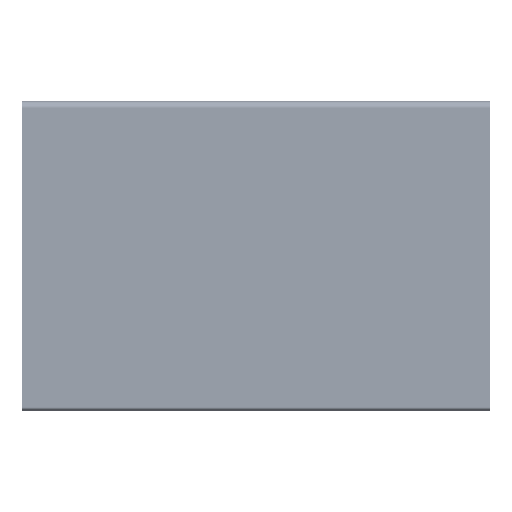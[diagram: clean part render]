
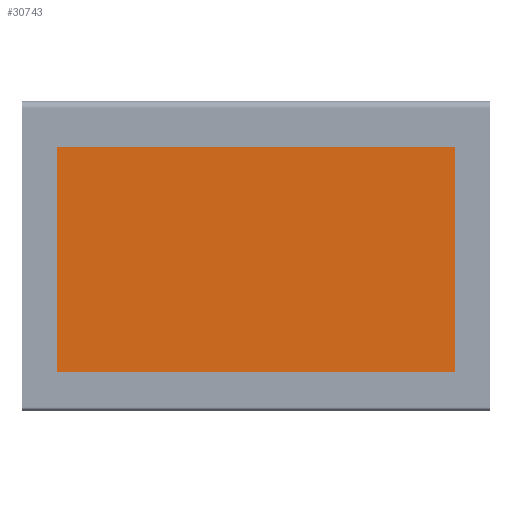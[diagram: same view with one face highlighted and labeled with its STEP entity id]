
A CAD part, top view. The second image highlights one B-rep face of the part: STEP entity #30743.
In plain terms, the highlighted planar face has unit normal (0, 0, 1).
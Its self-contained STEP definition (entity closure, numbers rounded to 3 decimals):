
#10075=DIRECTION('',(-1.,0.,0.));
#10076=VECTOR('',#10075,295.);
#10077=CARTESIAN_POINT('',(147.5,83.3,-0.2));
#10078=LINE('',#10077,#10076);
#10079=DIRECTION('',(0.,1.,0.));
#10080=VECTOR('',#10079,166.6);
#10081=CARTESIAN_POINT('',(147.5,-83.3,-0.2));
#10082=LINE('',#10081,#10080);
#10083=DIRECTION('',(1.,0.,0.));
#10084=VECTOR('',#10083,295.);
#10085=CARTESIAN_POINT('',(-147.5,-83.3,-0.2));
#10086=LINE('',#10085,#10084);
#10087=DIRECTION('',(0.,-1.,0.));
#10088=VECTOR('',#10087,166.6);
#10089=CARTESIAN_POINT('',(-147.5,83.3,-0.2));
#10090=LINE('',#10089,#10088);
#11658=CARTESIAN_POINT('',(-147.5,83.3,-0.2));
#11659=VERTEX_POINT('',#11658);
#11660=CARTESIAN_POINT('',(147.5,83.3,-0.2));
#11661=VERTEX_POINT('',#11660);
#11662=CARTESIAN_POINT('',(147.5,-83.3,-0.2));
#11663=VERTEX_POINT('',#11662);
#11664=CARTESIAN_POINT('',(-147.5,-83.3,-0.2));
#11665=VERTEX_POINT('',#11664);
#30732=CARTESIAN_POINT('',(0.,0.,-0.2));
#30733=DIRECTION('',(0.,0.,1.));
#30734=DIRECTION('',(1.,0.,0.));
#30735=AXIS2_PLACEMENT_3D('',#30732,#30733,#30734);
#30736=PLANE('',#30735);
#30737=ORIENTED_EDGE('',*,*,#30684,.F.);
#30738=ORIENTED_EDGE('',*,*,#30699,.F.);
#30739=ORIENTED_EDGE('',*,*,#30713,.F.);
#30740=ORIENTED_EDGE('',*,*,#30726,.F.);
#30741=EDGE_LOOP('',(#30737,#30738,#30739,#30740));
#30742=FACE_OUTER_BOUND('',#30741,.F.);
#30743=ADVANCED_FACE('',(#30742),#30736,.T.);
#30684=EDGE_CURVE('',#11661,#11659,#10078,.T.);
#30699=EDGE_CURVE('',#11663,#11661,#10082,.T.);
#30713=EDGE_CURVE('',#11665,#11663,#10086,.T.);
#30726=EDGE_CURVE('',#11659,#11665,#10090,.T.);
